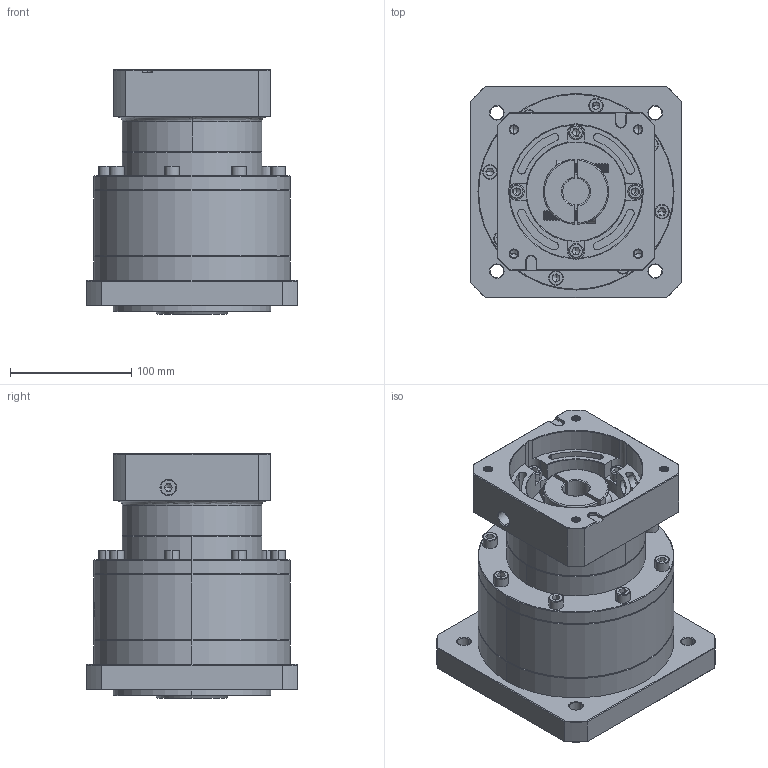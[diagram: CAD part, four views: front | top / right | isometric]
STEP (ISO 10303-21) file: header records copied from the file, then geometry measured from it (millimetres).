
FILE_DESCRIPTION (( 'STEP AP214' ), '1' );
FILE_NAME ('ZF160A-K35-L2-P2-22-110-145-M8.step', '2023-09-03T07:57:44', ( '' ), ( '' ), 'SwSTEP 2.0', 'SolidWorks 2016', '' );
FILE_SCHEMA (( 'AUTOMOTIVE_DESIGN' ));
Length unit declared in the file: millimetre
Products named in the file (1): ZF160A-K35-L2-P2-22-110-145-M8
Bounding box: 175 x 175 x 202.2 mm (x, y, z)
Volume: 3221140.8 mm3; surface area: 271444.3 mm2
Topology: 6 solids, 6 shells, 2424 faces, 6431 edges, 4127 vertices
Faces by surface type: plane 1138, cylinder 477, bspline 400, cone 355, torus 54
Entity records: 128667 total; most frequent: CARTESIAN_POINT 46835, ORIENTED_EDGE 12758, DIRECTION 9767, EDGE_CURVE 6379, VERTEX_POINT 4127, VECTOR 3395, LINE 3395, AXIS2_PLACEMENT_3D 3186
